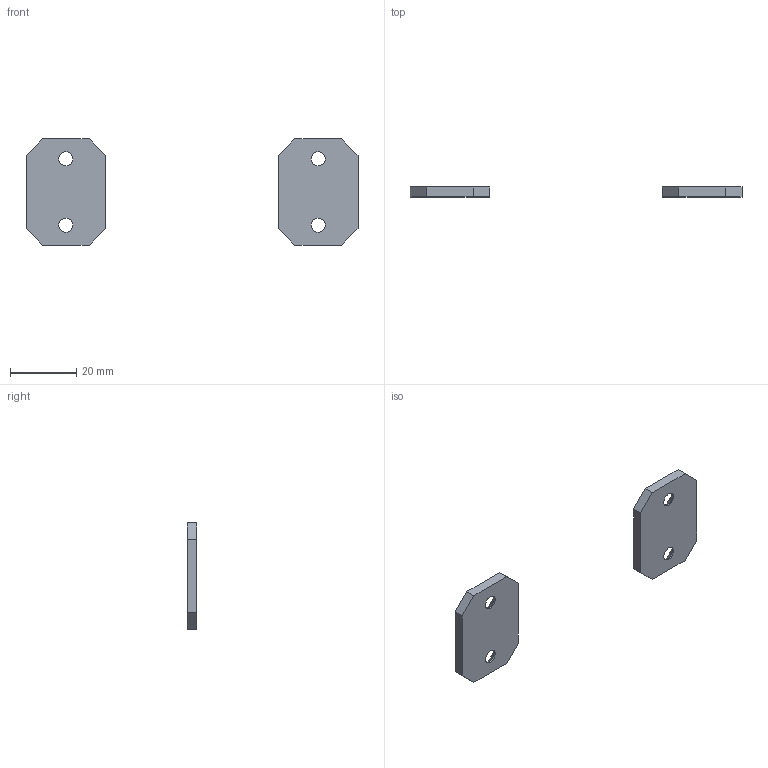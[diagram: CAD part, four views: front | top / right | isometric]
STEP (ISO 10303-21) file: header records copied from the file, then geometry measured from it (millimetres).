
FILE_DESCRIPTION(('CAx-IF Rec.Pracs.---Model Styling and Organization---1.2---2011-12-15','CAx-IF Rec.Pracs.---Geometric and Assembly Validation Properties---4.1---2014-06-16','CAx-IF Rec.Pracs.---PMI Polyline Presentation---2.0---2013-05-24'),'2;1');
FILE_NAME('R5M2WCK1-2.stp','2021-05-05T12:43:24+03:00',(''),(''),'STEP Interface 4.4 by CT CoreTechnologie','3D_Evolution4.4 by CT CoreTechnologie','');
FILE_SCHEMA(('AUTOMOTIVE_DESIGN { 1 0 10303 214 1 1 1 1 }'));
Length unit declared in the file: millimetre
Products named in the file (2): R5M2WCK1-2; RB.1512.00.00.0_-00
Assembly tree (2 placements, depth 2):
  R5M2WCK1-2
    RB.1512.00.00.0_-00  x2
Bounding box: 100 x 3 x 32 mm (x, y, z)
Surface area: 3476.5 mm2 (no closed solid volume)
Topology: 0 solids, 2 shells, 36 faces, 88 edges, 56 vertices
Faces by surface type: plane 20, bspline 8, cylinder 8
Entity records: 669 total; most frequent: CARTESIAN_POINT 145, DIRECTION 90, ORIENTED_EDGE 88, EDGE_CURVE 44, VECTOR 32, LINE 32, AXIS2_PLACEMENT_3D 29, VERTEX_POINT 28
